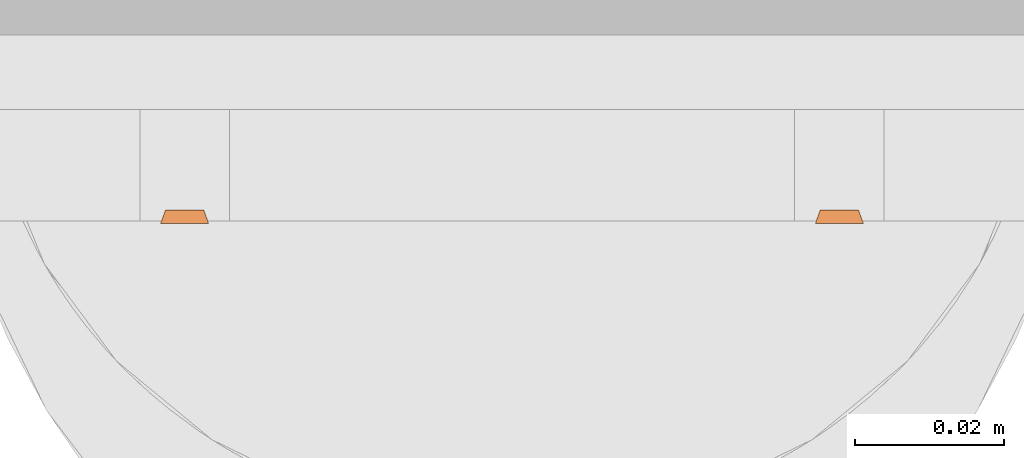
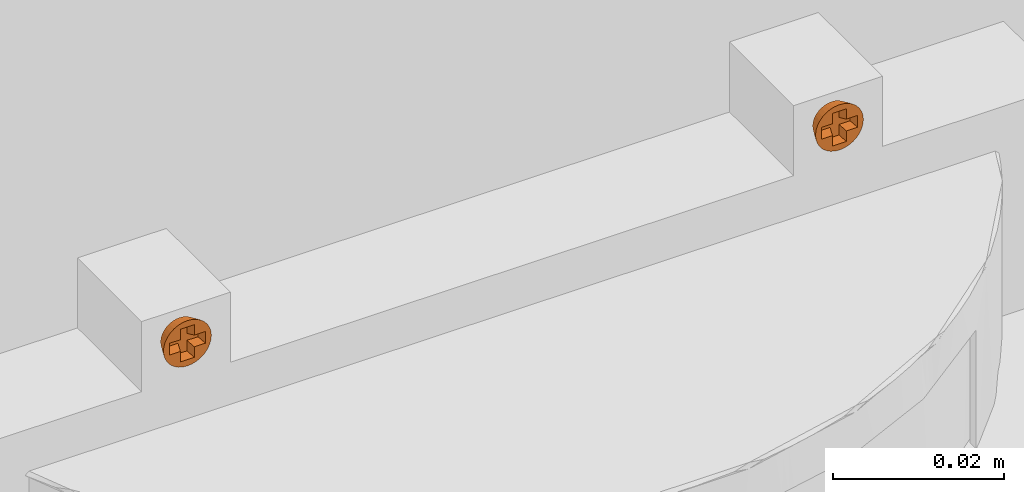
# One storey, part 2 of 2: 2 proxies.
"""IFC2X3 building model written with IfcOpenShell, lengths in metres."""

import ifcopenshell
import ifcopenshell.guid

model = None  # the IFC model being written
_history = None  # IfcOwnerHistory: only IFC2X3 demands one
_inside = {}  # id of a spatial element -> (the spatial element, [elements in it])
_under = {}  # id of a project, library or spatial element -> (it, [spatial elements below it])
_declared = {}  # id of a project -> (the project, [libraries it declares])
_typed = {}  # id of a type object -> (the type object, [elements of that type])
_made_of = {}  # id of a material, layer set ... -> (it, [elements and type objects made of it])


def new_model(schema):
    """Start an empty IFC model of exactly this schema.

    Asked for "IFC4X3", IfcOpenShell would pick the latest addendum, in which some entities
    have other attributes; the version numbers below select the first issue.
    IFC2X3 requires an IfcOwnerHistory on every rooted entity: one is made here for all.
    """
    global model, _history
    if schema == "IFC4X3":
        model = ifcopenshell.file(schema_version=(4, 3, 0, 0))
    else:
        model = ifcopenshell.file(schema=schema)
    _inside.clear()
    _under.clear()
    _declared.clear()
    _typed.clear()
    _made_of.clear()
    _history = None
    if model.schema == "IFC2X3":
        org = make("IfcOrganization", Name="unknown")
        user = make(
            "IfcPersonAndOrganization",
            ThePerson=make("IfcPerson", FamilyName="unknown"),
            TheOrganization=org,
        )
        app = make(
            "IfcApplication",
            ApplicationDeveloper=org,
            Version="unknown",
            ApplicationFullName="unknown",
            ApplicationIdentifier="unknown",
        )
        _history = make(
            "IfcOwnerHistory",
            OwningUser=user,
            OwningApplication=app,
            ChangeAction="ADDED",
            CreationDate=0,
        )
    return model


def make(cls, **values):
    """One entity of the class cls with the attributes given. An attribute that is None is left unset."""
    return model.create_entity(
        cls, **{name: value for name, value in values.items() if value is not None}
    )


def rooted(cls, **values):
    """An entity with a GlobalId (a new one), such as an element, a storey or a relation."""
    return make(cls, GlobalId=ifcopenshell.guid.new(), OwnerHistory=_history, **values)


def si_unit(unit_type, name, prefix=None):
    """IfcSIUnit, for example si_unit("LENGTHUNIT", "METRE", prefix="MILLI")."""
    return make("IfcSIUnit", UnitType=unit_type, Prefix=prefix, Name=name)


def assignment(units):
    """IfcUnitAssignment: the units of a project."""
    return None if units is None else make("IfcUnitAssignment", Units=units)


def point(xyz):
    """IfcCartesianPoint."""
    return None if xyz is None else make("IfcCartesianPoint", Coordinates=xyz)


def direction(xyz):
    """IfcDirection."""
    return None if xyz is None else make("IfcDirection", DirectionRatios=xyz)


def frame(location, z_axis=None, x_axis=None):
    """IfcAxis2Placement3D, a coordinate frame: its origin and axes. An axis left out is left unset."""
    return make(
        "IfcAxis2Placement3D",
        Location=point(location),
        Axis=direction(z_axis),
        RefDirection=direction(x_axis),
    )


def origin():
    """The frame at (0, 0, 0) with its axes left unset."""
    return frame((0.0, 0.0, 0.0))


def place(relative_to, where):
    """IfcLocalPlacement: puts the frame where relative to a parent placement (None: the world)."""
    return make(
        "IfcLocalPlacement", PlacementRelTo=relative_to, RelativePlacement=where
    )


def context(
    kind, dimensions, precision=None, world=None, true_north=None, identifier=None
):
    """IfcGeometricRepresentationContext, for example the 3D "Model" context."""
    return make(
        "IfcGeometricRepresentationContext",
        ContextIdentifier=identifier,
        ContextType=kind,
        CoordinateSpaceDimension=dimensions,
        Precision=precision,
        WorldCoordinateSystem=world,
        TrueNorth=true_north,
    )


def subcontext(parent, identifier, kind, view, scale=None):
    """IfcGeometricRepresentationSubContext, for example "Body" below "Model"."""
    return make(
        "IfcGeometricRepresentationSubContext",
        ContextIdentifier=identifier,
        ContextType=kind,
        ParentContext=parent,
        TargetScale=scale,
        TargetView=view,
    )


def project(units=None, contexts=None):
    """IfcProject with its units and contexts."""
    return rooted(
        "IfcProject",
        Name="project",
        RepresentationContexts=contexts,
        UnitsInContext=assignment(units),
    )


def spatial(cls, under=None, at=None, **own):
    """A site, building, storey or space (cls), placed at a placement, below another one or the project."""
    s = rooted(cls, ObjectPlacement=at, **own)
    if under is not None:
        _under.setdefault(under.id(), (under, []))[1].append(s)
    return s


def faces_of(points, faces, orient=None, outer=None):
    """IfcFace entities. A face is a list of loops; a loop is a list of indices into points, from 0.

    orient and outer hold one flag for each loop. By default every Orientation is true, the
    first loop of a face is its IfcFaceOuterBound and the others are IfcFaceBound.
    """
    made = []
    for i, loops in enumerate(faces):
        bounds = []
        for j, loop in enumerate(loops):
            is_outer = j == 0 if outer is None else outer[i][j]
            bounds.append(
                make(
                    "IfcFaceOuterBound" if is_outer else "IfcFaceBound",
                    Bound=make("IfcPolyLoop", Polygon=[points[k] for k in loop]),
                    Orientation=True if orient is None else orient[i][j],
                )
            )
        made.append(make("IfcFace", Bounds=bounds))
    return made


def faceted_brep(points, faces, orient=None, outer=None, voids=None):
    """IfcFacetedBrep: a solid bounded by flat faces; with voids (closed shells), ...WithVoids."""
    shared = [point(p) for p in points]
    hull = make("IfcClosedShell", CfsFaces=faces_of(shared, faces, orient, outer))
    if voids is None:
        return make("IfcFacetedBrep", Outer=hull)
    return make(
        "IfcFacetedBrepWithVoids",
        Outer=hull,
        Voids=[
            make(cls, CfsFaces=faces_of(shared, fs, o, b)) for cls, fs, o, b in voids
        ],
    )


def shape(context_of_items, identifier, shape_type, items):
    """IfcShapeRepresentation: the items that make up one representation, for example the "Body"."""
    return make(
        "IfcShapeRepresentation",
        ContextOfItems=context_of_items,
        RepresentationIdentifier=identifier,
        RepresentationType=shape_type,
        Items=items,
    )


def source(mapping_origin, context_of_items, identifier, shape_type, items):
    """IfcRepresentationMap: a shape defined once, which mapped items show again and again."""
    return make(
        "IfcRepresentationMap",
        MappingOrigin=mapping_origin,
        MappedRepresentation=shape(context_of_items, identifier, shape_type, items),
    )


def transform(
    local_origin,
    x_axis=None,
    y_axis=None,
    z_axis=None,
    scale=None,
    scale2=None,
    scale3=None,
    uniform=True,
):
    """IfcCartesianTransformationOperator3D, or its non-uniform kind. x_axis, y_axis, z_axis: its Axis1, 2, 3."""
    if uniform:
        return make(
            "IfcCartesianTransformationOperator3D",
            Axis1=direction(x_axis),
            Axis2=direction(y_axis),
            LocalOrigin=point(local_origin),
            Scale=scale,
            Axis3=direction(z_axis),
        )
    return make(
        "IfcCartesianTransformationOperator3DnonUniform",
        Axis1=direction(x_axis),
        Axis2=direction(y_axis),
        LocalOrigin=point(local_origin),
        Scale=scale,
        Axis3=direction(z_axis),
        Scale2=scale2,
        Scale3=scale3,
    )


def mapped(mapping_source, mapping_target):
    """IfcMappedItem: shows the shape of a source again, moved by a transform."""
    return make(
        "IfcMappedItem", MappingSource=mapping_source, MappingTarget=mapping_target
    )


def material(Name=None, Category=None):
    """IfcMaterial."""
    return make("IfcMaterial", Name=Name, Category=Category)


def made_of(thing, what):
    """Note that an element or type object is made of a material, layer set ...; save() writes the relation."""
    if what is not None:
        _made_of.setdefault(what.id(), (what, []))[1].append(thing)
    return thing


def type_object(cls, material=None, **own):
    """A type object (cls), such as IfcWallType, which elements share."""
    return made_of(rooted(cls, **own), material)


def type_shapes(of_type, sources):
    """Give a type object the sources (RepresentationMaps) that its elements show as mapped items."""
    of_type.RepresentationMaps = sources


def element(
    cls,
    number,
    at=None,
    inside=None,
    cuts=None,
    type_object=None,
    material=None,
    context=None,
    identifier="Body",
    shape_type=None,
    held_by="IfcProductDefinitionShape",
    body=None,
    shapes=None,
    **own,
):
    """One element of the class cls, such as IfcWall. Its Tag is "e" and its number.

    at: its placement. inside: the storey or other place that contains it. cuts: it is an
    opening in that element (IfcRelVoidsElement). A single representation is given by context,
    identifier, shape_type and body (its items); several are given by shapes. held_by: the class
    of the entity that holds the representations. save() writes the other relations.
    """
    e = rooted(cls, Tag="e%d" % number, ObjectPlacement=at, **own)
    if body is not None:
        shapes = [shape(context, identifier, shape_type, body)]
    if shapes is not None:
        e.Representation = make(held_by, Representations=shapes)
    if inside is not None:
        _inside.setdefault(inside.id(), (inside, []))[1].append(e)
    if cuts is not None:
        rooted(
            "IfcRelVoidsElement", RelatingBuildingElement=cuts, RelatedOpeningElement=e
        )
    if type_object is not None:
        _typed.setdefault(type_object.id(), (type_object, []))[1].append(e)
    return made_of(e, material)


def aggregate(whole, parts):
    """IfcRelAggregates: a whole, such as a stair, and the parts it consists of."""
    return rooted("IfcRelAggregates", RelatingObject=whole, RelatedObjects=parts)


def save(model, path):
    """Write the relations noted so far, then the file.

    IfcRelAggregates (storeys below a building ...), IfcRelContainedInSpatialStructure (elements
    in a storey), IfcRelDefinesByType, IfcRelAssociatesMaterial and IfcRelDeclares: one each for
    every whole, place, type object, material and project.
    """
    for whole, parts in _under.values():
        aggregate(whole, parts)
    for where, things in _inside.values():
        rooted(
            "IfcRelContainedInSpatialStructure",
            RelatedElements=things,
            RelatingStructure=where,
        )
    for kind, things in _typed.values():
        rooted("IfcRelDefinesByType", RelatedObjects=things, RelatingType=kind)
    for what, things in _made_of.values():
        rooted("IfcRelAssociatesMaterial", RelatedObjects=things, RelatingMaterial=what)
    for by, libraries in _declared.values():
        rooted("IfcRelDeclares", RelatingContext=by, RelatedDefinitions=libraries)
    model.write(path)


model = new_model("IFC2X3")

# Units and contexts
model_context = context("Model", 3, precision=1e-05, world=origin(), true_north=direction((6.123233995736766e-17, 1.0)))
body_context = subcontext(model_context, "Body", "Model", "MODEL_VIEW")
ifc_project = project(units=[si_unit("LENGTHUNIT", "METRE"), si_unit("AREAUNIT", "SQUARE_METRE")], contexts=[model_context])

# Site, building, storey
site_placement = place(None, origin())
site = spatial("IfcSite", under=ifc_project, at=site_placement, Name="Default", CompositionType="ELEMENT")
building_placement = place(site_placement, origin())
building = spatial("IfcBuilding", under=site, at=building_placement, CompositionType="ELEMENT")
storey_placement = place(building_placement, origin())
storey = spatial("IfcBuildingStorey", under=building, at=storey_placement, Name="Level 1", CompositionType="ELEMENT", Elevation=0.0)

# Proxies
ifc_material = material(Name="Brass")
building_element_proxy_type = type_object("IfcBuildingElementProxyType", Name="Screw:Screw", PredefinedType="NOTDEFINED", material=ifc_material)
shared_shape = source(origin(), body_context, "Body", "Brep", [
    faceted_brep([(-0.003171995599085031, 0.0006309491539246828, 0.000316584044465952), (-0.0024394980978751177, 0.0008394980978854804, 0.0003165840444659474), (-0.0029879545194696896, 0.0012376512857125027, 0.0003165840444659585), (-0.0024394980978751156, 0.0, 0.0003165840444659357), (-0.0032341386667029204, 0.0, 0.00031658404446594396), (-0.0031719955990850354, -0.0006309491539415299, 0.00031658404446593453), (-0.0024394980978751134, -0.0008394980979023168, 0.0003165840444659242), (-0.002987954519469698, -0.00123765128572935, 0.00031658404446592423), (-0.0026890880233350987, -0.0017967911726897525, 0.00031658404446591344), (-0.0022868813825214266, -0.0022868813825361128, 0.00031658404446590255), (-0.000939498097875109, -0.0008394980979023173, 0.0003165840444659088), (-0.0009394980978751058, -0.0023394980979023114, 0.000316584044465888), (-0.0017967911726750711, -0.002689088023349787, 0.000316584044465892), (-0.001237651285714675, -0.0029879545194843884, 0.00031658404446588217), (-0.0006309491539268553, -0.003171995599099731, 0.00031658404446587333), (0.0, -0.0032341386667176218, 0.000316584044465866), (0.0009394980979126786, -0.002339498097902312, 0.0003165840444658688), (0.0006309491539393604, -0.003171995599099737, 0.0003165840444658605), (0.0012376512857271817, -0.0029879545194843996, 0.00031658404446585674), (0.001796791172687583, -0.0026890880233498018, 0.00031658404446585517), (0.0022868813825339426, -0.0022868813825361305, 0.0003165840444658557), (0.0009394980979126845, -0.0008394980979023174, 0.00031658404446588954), (0.0024415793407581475, -0.0008394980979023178, 0.00031658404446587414), (0.0026890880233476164, -0.0017967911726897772, 0.00031658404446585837), (0.002987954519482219, -0.0012376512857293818, 0.00031658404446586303), (0.0031719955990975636, -0.0006309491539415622, 0.00031658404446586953), (0.0024415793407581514, 0.0, 0.0003165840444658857), (0.0032341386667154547, 0.0, 0.00031658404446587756), (0.0031719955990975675, 0.0006309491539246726, 0.000316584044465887), (0.002441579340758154, 0.0008394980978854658, 0.00031658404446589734), (0.002987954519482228, 0.0012376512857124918, 0.0003165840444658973), (0.002689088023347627, 0.0017967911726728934, 0.000316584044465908), (0.002286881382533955, 0.00228688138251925, 0.000316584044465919), (0.0009394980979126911, 0.0008394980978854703, 0.00031658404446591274), (0.000939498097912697, 0.002325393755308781, 0.0003165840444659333), (0.0017967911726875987, 0.002689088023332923, 0.00031658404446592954), (0.0012376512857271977, 0.0029879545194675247, 0.00031658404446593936), (0.0006309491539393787, 0.0031719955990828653, 0.0003165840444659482), (0.0, 0.0032341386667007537, 0.0003165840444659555), (-0.0009394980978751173, 0.0023253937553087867, 0.00031658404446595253), (-0.0006309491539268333, 0.003171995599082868, 0.00031658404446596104), (-0.0012376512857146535, 0.002987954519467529, 0.0003165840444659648), (-0.0017967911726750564, 0.0026890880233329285, 0.00031658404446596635), (-0.0022868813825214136, 0.0022868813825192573, 0.0003165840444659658), (-0.0009394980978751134, 0.0008394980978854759, 0.000316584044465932), (-0.0026890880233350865, 0.0017967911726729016, 0.00031658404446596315), (0.0, 0.0, -0.001499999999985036), (-0.002572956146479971, 0.0, -0.0014999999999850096), (-0.0025235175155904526, 0.0005019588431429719, -0.0014999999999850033), (-0.002377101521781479, 0.0009846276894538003, -0.001499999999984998), (-0.0021393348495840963, 0.0014294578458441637, -0.0014999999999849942), (-0.0018193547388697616, 0.0018193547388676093, -0.0014999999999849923), (-0.0014294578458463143, 0.0021393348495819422, -0.0014999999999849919), (-0.0009846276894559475, 0.002377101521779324, -0.001499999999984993), (-0.0005019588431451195, 0.0025235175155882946, -0.0014999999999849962), (0.0, 0.002572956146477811, -0.0014999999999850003), (0.0005019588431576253, 0.0025235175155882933, -0.0014999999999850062), (0.0009846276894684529, 0.0023771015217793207, -0.0014999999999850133), (0.0014294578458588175, 0.002139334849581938, -0.0014999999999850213), (0.0018193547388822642, 0.0018193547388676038, -0.0014999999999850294), (0.0021393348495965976, 0.001429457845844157, -0.0014999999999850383), (0.00237710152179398, 0.0009846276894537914, -0.001499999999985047), (0.0025235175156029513, 0.0005019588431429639, -0.0014999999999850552), (0.0025729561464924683, 0.0, -0.0014999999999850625), (-0.0025235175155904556, -0.0005019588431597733, -0.001499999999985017), (-0.002377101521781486, -0.0009846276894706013, -0.0014999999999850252), (-0.0021393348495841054, -0.0014294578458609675, -0.001499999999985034), (-0.0018193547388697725, -0.0018193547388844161, -0.0014999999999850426), (-0.001429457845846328, -0.002139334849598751, -0.0014999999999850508), (-0.0009846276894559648, -0.002377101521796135, -0.0014999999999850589), (-0.0005019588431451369, -0.0025235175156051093, -0.001499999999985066), (0.0, -0.002572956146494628, -0.0014999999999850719), (0.002523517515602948, -0.0005019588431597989, -0.0014999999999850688), (0.002377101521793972, -0.0009846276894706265, -0.0014999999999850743), (0.002139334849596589, -0.0014294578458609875, -0.001499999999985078), (0.0018193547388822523, -0.001819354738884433, -0.0014999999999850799), (0.0014294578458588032, -0.0021393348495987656, -0.0014999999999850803), (0.0009846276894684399, -0.002377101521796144, -0.0014999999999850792), (0.0005019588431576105, -0.002523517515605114, -0.001499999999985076), (-0.0005999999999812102, -0.0005000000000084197, -0.0008462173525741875), (-0.0005999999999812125, -0.00200000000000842, -0.0008462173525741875), (0.0006000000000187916, -0.002000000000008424, -0.0008462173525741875), (0.0006000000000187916, -0.0005000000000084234, -0.0008462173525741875), (0.002102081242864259, -0.0005000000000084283, -0.0008462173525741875), (0.002102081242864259, 0.0004999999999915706, -0.0008462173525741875), (0.0006000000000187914, 0.0004999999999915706, -0.0008462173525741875), (0.0006000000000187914, 0.001985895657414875, -0.0008462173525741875), (-0.0005999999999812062, 0.001985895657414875, -0.0008462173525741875), (-0.0005999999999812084, 0.0004999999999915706, -0.0008462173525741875), (-0.0020999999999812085, 0.0004999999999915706, -0.0008462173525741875), (-0.00209999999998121, -0.0005000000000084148, -0.0008462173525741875)], [[[0, 1, 2]], [[3, 1, 0]], [[3, 0, 4]], [[3, 4, 5]], [[6, 3, 5]], [[6, 5, 7]], [[6, 7, 8]], [[9, 6, 8]], [[9, 10, 6]], [[10, 9, 11]], [[11, 9, 12]], [[13, 11, 12]], [[13, 14, 11]], [[11, 14, 15]], [[16, 11, 15]], [[15, 17, 16]], [[16, 17, 18]], [[19, 16, 18]], [[19, 20, 16]], [[16, 20, 21]], [[21, 20, 22]], [[20, 23, 22]], [[22, 23, 24]], [[24, 25, 22]], [[26, 22, 25]], [[27, 26, 25]], [[28, 26, 27]], [[29, 26, 28]], [[29, 28, 30]], [[31, 29, 30]], [[29, 31, 32]], [[32, 33, 29]], [[33, 32, 34]], [[32, 35, 34]], [[36, 34, 35]], [[37, 34, 36]], [[38, 34, 37]], [[38, 39, 34]], [[38, 40, 39]], [[41, 39, 40]], [[39, 41, 42]], [[43, 39, 42]], [[43, 1, 44]], [[43, 45, 1]], [[44, 39, 43]], [[2, 1, 45]], [[46, 47, 48]], [[48, 49, 46]], [[50, 46, 49]], [[51, 46, 50]], [[46, 51, 52]], [[52, 53, 46]], [[53, 54, 46]], [[54, 55, 46]], [[55, 56, 46]], [[57, 46, 56]], [[46, 57, 58]], [[58, 59, 46]], [[60, 46, 59]], [[61, 46, 60]], [[62, 46, 61]], [[62, 63, 46]], [[46, 64, 47]], [[46, 65, 64]], [[65, 46, 66]], [[67, 66, 46]], [[67, 46, 68]], [[69, 68, 46]], [[46, 70, 69]], [[46, 71, 70]], [[46, 63, 72]], [[73, 46, 72]], [[73, 74, 46]], [[75, 46, 74]], [[76, 46, 75]], [[46, 76, 77]], [[77, 78, 46]], [[71, 46, 78]], [[62, 28, 27, 63]], [[28, 62, 61, 30]], [[61, 60, 31, 30]], [[32, 59, 58, 35]], [[58, 57, 36, 35]], [[60, 59, 32, 31]], [[57, 56, 37, 36]], [[37, 56, 55, 38]], [[53, 41, 40, 54]], [[41, 53, 52, 42]], [[52, 51, 43, 42]], [[45, 50, 49, 2]], [[49, 48, 0, 2]], [[51, 50, 45, 43]], [[48, 47, 4, 0]], [[40, 38, 55, 54]], [[64, 5, 4, 47]], [[5, 64, 65, 7]], [[65, 66, 8, 7]], [[9, 67, 68, 12]], [[68, 69, 13, 12]], [[66, 67, 9, 8]], [[69, 70, 14, 13]], [[14, 70, 71, 15]], [[77, 18, 17, 78]], [[18, 77, 76, 19]], [[76, 75, 20, 19]], [[23, 74, 73, 24]], [[73, 72, 25, 24]], [[75, 74, 23, 20]], [[72, 63, 27, 25]], [[17, 15, 71, 78]], [[79, 80, 81, 82, 83, 84, 85, 86, 87, 88, 89, 90]], [[87, 86, 34, 39]], [[44, 88, 87, 39]], [[80, 79, 10, 11]], [[89, 88, 44, 1]], [[33, 85, 84, 29]], [[3, 6, 90, 89, 1]], [[10, 79, 90, 6]], [[83, 82, 21, 22]], [[16, 81, 80, 11]], [[21, 82, 81, 16]], [[86, 85, 33, 34]], [[26, 29, 84, 83, 22]]]),
])
type_shapes(building_element_proxy_type, [shared_shape])
for number, where, z_axis, x_axis, name in (
    (1, (-7.2552680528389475, 3.9707790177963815, 2.214999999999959), (0.0, -1.0, 0.0), (1.0, 0.0, 0.0), "Screw:Screw"),
    (2, (-7.167268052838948, 3.970779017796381, 2.214999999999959), (0.0, -1.0, 0.0), (1.0, 0.0, 0.0), "Screw:Screw"),
):
    element("IfcBuildingElementProxy", number, at=place(storey_placement, frame(where, z_axis=z_axis, x_axis=x_axis)), inside=storey, type_object=building_element_proxy_type, material=ifc_material, Name=name, ObjectType="Screw:Screw", context=body_context, shape_type="MappedRepresentation", body=[
        mapped(shared_shape, transform((0.0, 0.0, 0.0), scale=1.0)),
    ])

save(model, "model.ifc")
